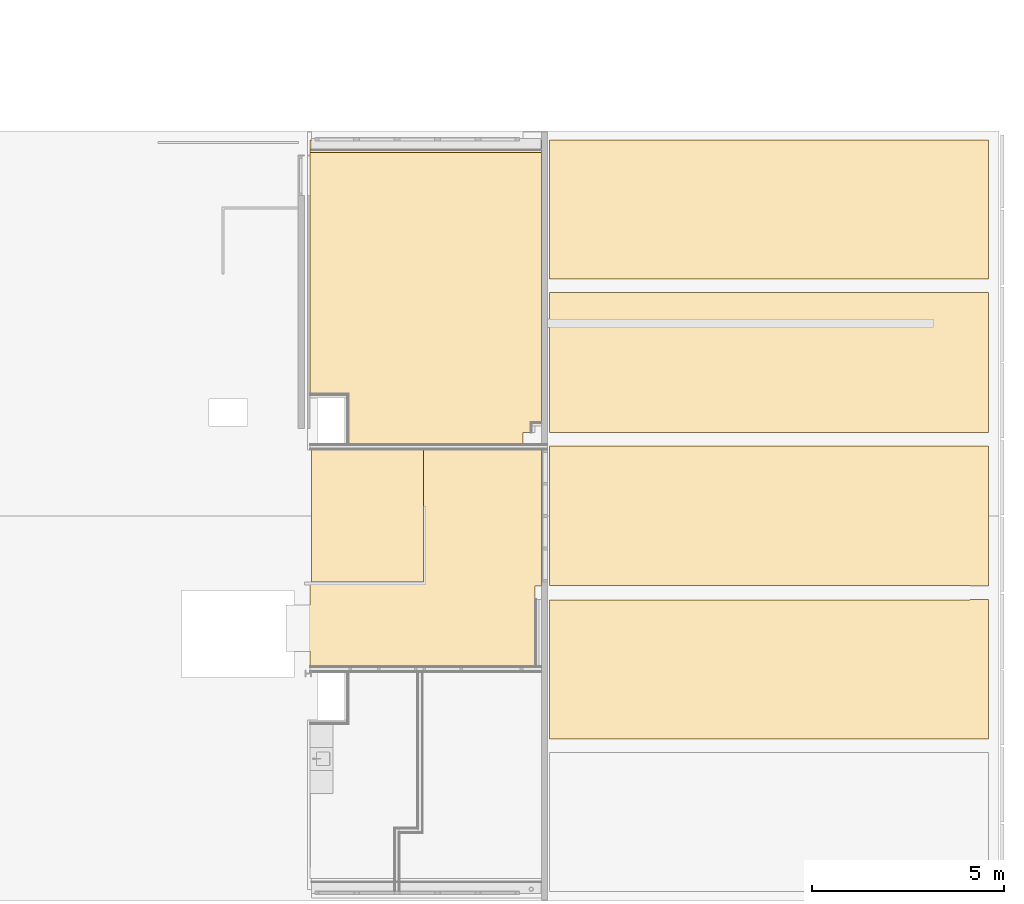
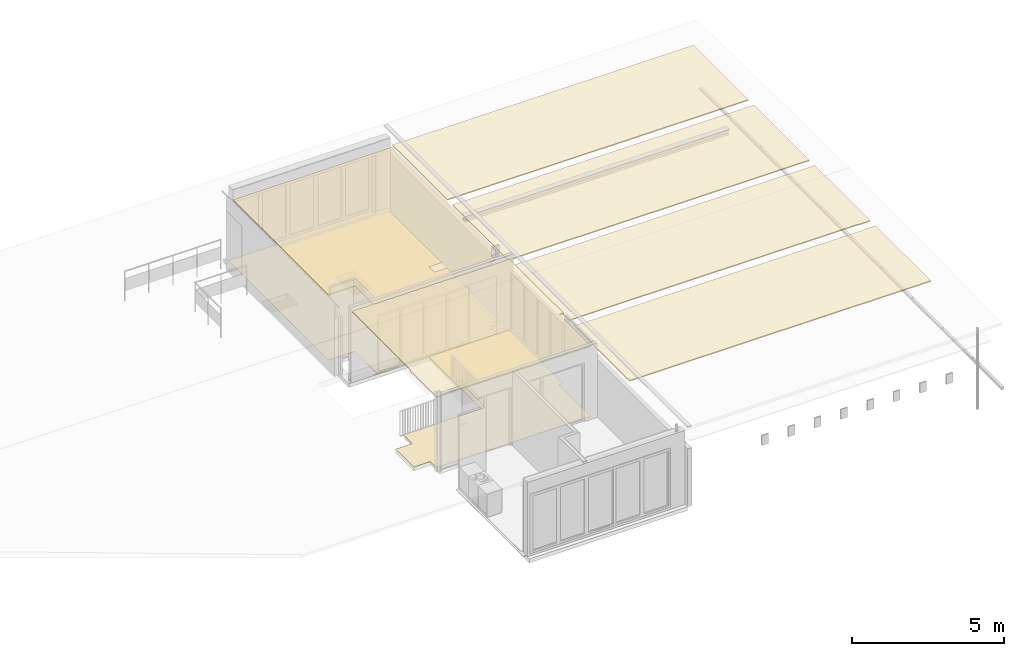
# One storey, part 21 of 25: 8 coverings.
"""IFC2X3 building model written with IfcOpenShell, lengths in millimetres."""

from ifc_helpers import new_model, entity, si_unit, converted_unit, derived_unit, money_unit, direction, frame, origin_with_axes, place, context, subcontext, project, spatial, faceted_brep, material, type_object, element, save


model = new_model("IFC2X3")

# Units and contexts
model_context = context("Model", 3, precision=0.01, world=origin_with_axes(), true_north=direction((0.0, 1.0)))
body_context = subcontext(model_context, "Body", "Model", "MODEL_VIEW")
ifc_project = project(units=[si_unit("LENGTHUNIT", "METRE", prefix="MILLI"), si_unit("AREAUNIT", "SQUARE_METRE"), si_unit("VOLUMEUNIT", "CUBIC_METRE"), converted_unit("PLANEANGLEUNIT", "DEGREE", entity("IfcPlaneAngleMeasure", 0.0174532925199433), si_unit("PLANEANGLEUNIT", "RADIAN"), dimensions=[0, 0, 0, 0, 0, 0, 0]), money_unit("EUR"), converted_unit("TIMEUNIT", "Year", entity("IfcTimeMeasure", 31557600.0), si_unit("TIMEUNIT", "SECOND"), dimensions=[0, 0, 1, 0, 0, 0, 0]), si_unit("MASSUNIT", "GRAM", prefix="KILO"), si_unit("THERMODYNAMICTEMPERATUREUNIT", "DEGREE_CELSIUS"), si_unit("LUMINOUSINTENSITYUNIT", "LUMEN"), si_unit("ENERGYUNIT", "JOULE", prefix="MEGA"), derived_unit("THERMALCONDUCTANCEUNIT", [(si_unit("POWERUNIT", "WATT"), 1), (si_unit("LENGTHUNIT", "METRE"), -1), (si_unit("THERMODYNAMICTEMPERATUREUNIT", "KELVIN"), -1)]), derived_unit("SPECIFICHEATCAPACITYUNIT", [(si_unit("ENERGYUNIT", "JOULE"), 1), (si_unit("MASSUNIT", "GRAM", prefix="KILO"), -1), (si_unit("THERMODYNAMICTEMPERATUREUNIT", "KELVIN"), -1)]), derived_unit("MASSDENSITYUNIT", [(si_unit("MASSUNIT", "GRAM", prefix="KILO"), 1), (si_unit("VOLUMEUNIT", "CUBIC_METRE"), -1)])], contexts=[model_context])

# Site, building, storey
site_placement = place(None, origin_with_axes())
site = spatial("IfcSite", under=ifc_project, at=site_placement, Name="<site naam>", CompositionType="ELEMENT")
building_placement = place(site_placement, origin_with_axes())
building = spatial("IfcBuilding", under=site, at=building_placement, Name="<Naam gebouw>", CompositionType="ELEMENT")
storey_placement = place(building_placement, frame((0.0, 0.0, 9563.0), z_axis=(0.0, 0.0, 1.0), x_axis=(1.0, 0.0, 0.0)))
storey = spatial("IfcBuildingStorey", under=building, at=storey_placement, Name="03 3e tussenverdieping", CompositionType="ELEMENT", Elevation=9563.0)

# Coverings
ifc_material_1 = material(Name="systeemplafond 600*600 kleur wit")
covering_type_1 = type_object("IfcCoveringType", Name="PA-01a 40", PredefinedType="CEILING")
covering_1_placement = place(storey_placement, frame((52135.00000000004, 19469.99999999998, 2600.0), z_axis=(0.0, 0.0, 1.0), x_axis=(1.0, 0.0, 0.0)))
element("IfcCovering", 1, at=covering_1_placement, inside=storey, type_object=covering_type_1, material=ifc_material_1, Name="45_Vloer_PA-01a", PredefinedType="CEILING", context=body_context, shape_type="Brep", body=[
    faceted_brep([(0.0, 0.0, 40.00000000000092), (0.0, 0.0, 0.0), (0.0, -6282.500067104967, 0.0), (0.0, -6282.500067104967, 40.00000000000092), (6022.782845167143, 0.0, 40.00000000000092), (6022.782845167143, 0.0, 0.0), (6022.782845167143, -7024.99992369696, 0.0), (5752.999757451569, -7024.99992369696, 0.0), (5752.999757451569, -7295.000019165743, 0.0), (5539.999978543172, -7295.000019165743, 0.0), (5539.999978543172, -7594.999957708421, 0.0), (1002.499965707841, -7594.999957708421, 0.0), (1002.499965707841, -6282.500067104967, 0.0), (1002.499965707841, -6282.500067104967, 40.00000000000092), (1002.499965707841, -7594.999957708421, 40.00000000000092), (5539.999978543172, -7594.999957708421, 40.00000000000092), (5539.999978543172, -7295.000019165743, 40.00000000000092), (5752.999757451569, -7295.000019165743, 40.00000000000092), (5752.999757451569, -7024.99992369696, 40.00000000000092), (6022.782845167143, -7024.99992369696, 40.00000000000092)], [[[0, 1, 2, 3]], [[4, 5, 1, 0]], [[2, 1, 5, 6, 7, 8, 9, 10, 11, 12]], [[3, 2, 12, 13]], [[4, 0, 3, 13, 14, 15, 16, 17, 18, 19]], [[19, 6, 5, 4]], [[18, 7, 6, 19]], [[17, 8, 7, 18]], [[16, 9, 8, 17]], [[15, 10, 9, 16]], [[14, 11, 10, 15]], [[13, 12, 11, 14]]]),
])
ifc_material_2 = material(Name="systeemplafond 600*600")
covering_type_2 = type_object("IfcCoveringType", Name="PA-01c 40", PredefinedType="CEILING")
covering_2_placement = place(storey_placement, frame((52134.99996013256, 7827.787513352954, 2799.999999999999), z_axis=(0.0, 0.0, 1.0), x_axis=(1.0, 0.0, 0.0)))
element("IfcCovering", 2, at=covering_2_placement, inside=storey, type_object=covering_type_2, material=ifc_material_2, Name="45_Vloer_PA-01c", PredefinedType="CEILING", context=body_context, shape_type="Brep", body=[
    faceted_brep([(0.0, 0.0, 40.00000000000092), (0.0, 0.0, 0.0), (0.0, -1742.787513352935, 0.0), (0.0, -1742.787513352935, 40.00000000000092), (40.00003474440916, 0.0, 40.00000000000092), (40.00003474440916, 0.0, 0.0), (40.00003474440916, 3897.212718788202, 0.0), (6022.78288457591, 3897.212718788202, 0.0), (6022.78288457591, 347.2124866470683, 0.0), (5865.000039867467, 347.2124866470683, 0.0), (5865.000039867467, -1742.787513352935, 0.0), (5865.000039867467, -1742.787513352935, 40.00000000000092), (5865.000039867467, 347.2124866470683, 40.00000000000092), (6022.78288457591, 347.2124866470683, 40.00000000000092), (6022.78288457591, 3897.212718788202, 40.00000000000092), (40.00003474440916, 3897.212718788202, 40.00000000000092)], [[[0, 1, 2, 3]], [[4, 5, 1, 0]], [[1, 5, 6, 7, 8, 9, 10, 2]], [[3, 2, 10, 11]], [[4, 0, 3, 11, 12, 13, 14, 15]], [[15, 6, 5, 4]], [[14, 7, 6, 15]], [[13, 8, 7, 14]], [[12, 9, 8, 13]], [[11, 10, 9, 12]]]),
])
ifc_material_3 = material(Name="geïntegreerd balvast lamellenplafond")
covering_type_3 = type_object("IfcCoveringType", Name="PA-04 40", PredefinedType="CEILING")
covering_3_placement = place(storey_placement, frame((69812.00005339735, 15824.99995279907, 2427.029654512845), z_axis=(0.0, 0.0, 1.0), x_axis=(1.0, 0.0, 0.0)))
element("IfcCovering", 3, at=covering_3_placement, inside=storey, type_object=covering_type_3, material=ifc_material_3, Name="45_Vloer_PA-04", PredefinedType="CEILING", context=body_context, shape_type="Brep", body=[
    faceted_brep([(0.0, 0.0, 40.00000000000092), (0.0, 0.0, 0.0), (-11444.56596703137, 0.0, 0.0), (-11444.56596703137, 0.0, 40.00000000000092), (0.0, -3649.99991845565, 40.00000000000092), (0.0, -3649.99991845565, 0.0), (-11444.56596703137, -3649.99991845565, 0.0), (-11444.56596703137, -3649.99991845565, 40.00000000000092)], [[[0, 1, 2, 3]], [[4, 5, 1, 0]], [[2, 1, 5, 6]], [[3, 2, 6, 7]], [[4, 0, 3, 7]], [[7, 6, 5, 4]]]),
])
covering_4_placement = place(storey_placement, frame((58367.43408636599, 11825.00000469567, 2427.029654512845), z_axis=(0.0, 0.0, 1.0), x_axis=(1.0, 0.0, 0.0)))
element("IfcCovering", 4, at=covering_4_placement, inside=storey, type_object=covering_type_3, material=ifc_material_3, Name="45_Vloer_PA-04", PredefinedType="CEILING", context=body_context, shape_type="Brep", body=[
    faceted_brep([(0.0, -3640.000004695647, 40.00000000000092), (10957.56591363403, -3640.000004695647, 40.00000000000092), (10957.56591363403, -3650.000004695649, 40.00000000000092), (11444.56596703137, -3649.99991845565, 40.00000000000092), (11444.56596703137, 0.0, 40.00000000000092), (0.0, 0.0, 40.00000000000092), (10957.56591363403, -3640.000004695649, 0.0), (0.0, -3640.000004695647, 0.0), (10957.56591363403, -3650.000004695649, 0.0), (11444.56596703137, -3649.99991845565, 0.0), (11444.56596703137, 0.0, 0.0), (0.0, 0.0, 0.0)], [[[0, 1, 2, 3, 4, 5]], [[6, 1, 0, 7]], [[8, 2, 1, 6]], [[3, 2, 8, 9]], [[4, 3, 9, 10]], [[5, 4, 10, 11]], [[11, 7, 0, 5]], [[8, 6, 7, 11, 10, 9]]]),
])
covering_5_placement = place(storey_placement, frame((58367.43408636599, 7825.000054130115, 2427.029654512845), z_axis=(0.0, 0.0, 1.0), x_axis=(1.0, 0.0, 0.0)))
element("IfcCovering", 5, at=covering_5_placement, inside=storey, type_object=covering_type_3, material=ifc_material_3, Name="45_Vloer_PA-04", PredefinedType="CEILING", context=body_context, shape_type="Brep", body=[
    faceted_brep([(11444.56596703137, 0.0, 0.0), (10957.56591363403, -5.413009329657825e-05, 0.0), (10957.56591363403, -5.413009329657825e-05, 40.00000000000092), (11444.56596703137, 0.0, 40.00000000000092), (0.0, -10.00005413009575, 0.0), (10957.56591363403, -10.00005413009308, 0.0), (11444.56596703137, -3639.089444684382, 0.0), (0.0, -3639.089444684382, 0.0), (10957.56591363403, -10.00005413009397, 40.00000000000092), (0.0, -10.00005413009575, 40.00000000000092), (0.0, -3639.089444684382, 40.00000000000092), (11444.56596703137, -3639.089444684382, 40.00000000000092)], [[[0, 1, 2, 3]], [[4, 5, 1, 0, 6, 7]], [[5, 8, 2, 1]], [[2, 8, 9, 10, 11, 3]], [[3, 11, 6, 0]], [[4, 9, 8, 5]], [[11, 10, 7, 6]], [[10, 9, 4, 7]]]),
])
covering_6_placement = place(storey_placement, frame((58367.43408636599, 16174.99996479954, 2427.029654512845), z_axis=(0.0, 0.0, 1.0), x_axis=(1.0, 0.0, 0.0)))
element("IfcCovering", 6, at=covering_6_placement, inside=storey, type_object=covering_type_3, material=ifc_material_3, Name="45_Vloer_PA-04", PredefinedType="CEILING", context=body_context, shape_type="Brep", body=[
    faceted_brep([(0.0, 0.0, 40.00000000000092), (0.0, 0.0, 0.0), (11444.56596703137, 0.0, 0.0), (11444.56596703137, 0.0, 40.00000000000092), (0.0, 3615.000025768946, 40.00000000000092), (0.0, 3615.000025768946, 0.0), (11444.56596703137, 3615.000025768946, 0.0), (11444.56596703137, 3615.000025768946, 40.00000000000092)], [[[0, 1, 2, 3]], [[4, 5, 1, 0]], [[2, 1, 5, 6]], [[3, 2, 6, 7]], [[4, 0, 3, 7]], [[7, 6, 5, 4]]]),
])
ifc_material_4 = material(Name="Vinyl type 01a")
covering_type_4 = type_object("IfcCoveringType", Name="VA-01a 3", PredefinedType="CEILING")
covering_7_placement = place(storey_placement, frame((58157.78291941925, 19800.00000000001, 0.0), z_axis=(0.0, 0.0, 1.0), x_axis=(1.0, 0.0, 0.0)))
element("IfcCovering", 7, at=covering_7_placement, inside=storey, type_object=covering_type_4, material=ifc_material_4, Name="43_Vloer_VA-01a", PredefinedType="CEILING", context=body_context, shape_type="Brep", body=[
    faceted_brep([(0.0, 0.0, 3.000000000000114), (0.0, 0.0, 0.0), (-6022.782890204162, 0.0, 0.0), (-6022.782890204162, 0.0, 3.000000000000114), (0.0, -3625.000023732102, 3.000000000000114), (0.0, -3625.000023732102, 0.0), (-482.7829636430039, -3625.000023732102, 0.0), (-482.7829636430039, -3975.000000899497, 0.0), (0.0, -3975.000000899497, 0.0), (0.0, -7454.999924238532, 0.0), (-169.7831050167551, -7454.999924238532, 0.0), (-169.7831050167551, -7625.000075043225, 0.0), (-482.7829636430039, -7625.000075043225, 0.0), (-482.7829636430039, -8075.000010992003, 0.0), (-5020.282884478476, -8075.000010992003, 0.0), (-5020.282884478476, -6612.499976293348, 0.0), (-6022.782890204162, -6612.499976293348, 0.0), (-6022.782890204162, -6612.499976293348, 3.000000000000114), (-5020.282884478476, -6612.499976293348, 3.000000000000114), (-5020.282884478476, -8075.000010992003, 3.000000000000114), (-482.7829636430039, -8075.000010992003, 3.000000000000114), (-482.7829636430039, -7625.000075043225, 3.000000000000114), (-169.7831050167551, -7625.000075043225, 3.000000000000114), (-169.7831050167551, -7454.999924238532, 3.000000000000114), (0.0, -7454.999924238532, 3.000000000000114), (0.0, -3975.000000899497, 3.000000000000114), (-482.7829636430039, -3975.000000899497, 3.000000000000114), (-482.7829636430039, -3625.000023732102, 3.000000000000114)], [[[0, 1, 2, 3]], [[4, 5, 1, 0]], [[2, 1, 5, 6, 7, 8, 9, 10, 11, 12, 13, 14, 15, 16]], [[3, 2, 16, 17]], [[4, 0, 3, 17, 18, 19, 20, 21, 22, 23, 24, 25, 26, 27]], [[27, 6, 5, 4]], [[26, 7, 6, 27]], [[25, 8, 7, 26]], [[24, 9, 8, 25]], [[23, 10, 9, 24]], [[22, 11, 10, 23]], [[21, 12, 11, 22]], [[20, 13, 12, 21]], [[19, 14, 13, 20]], [[18, 15, 14, 19]], [[17, 16, 15, 18]]]),
])
covering_8_placement = place(storey_placement, frame((52134.99997764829, 8275.000072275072, 0.0), z_axis=(0.0, 0.0, 1.0), x_axis=(1.0, 0.0, 0.0)))
element("IfcCovering", 8, at=covering_8_placement, inside=storey, type_object=covering_type_4, material=ifc_material_4, Name="43_Vloer_VA-01a", PredefinedType="CEILING", context=body_context, shape_type="Brep", body=[
    faceted_brep([(0.0, 0.0, 3.000000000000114), (0.0, 0.0, 0.0), (0.0, -600.0000722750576, 0.0), (0.0, -600.0000722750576, 3.000000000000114), (2959.621819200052, 0.0, 3.000000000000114), (2959.621819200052, 0.0, 0.0), (2959.621819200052, 3449.999948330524, 0.0), (6022.782733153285, 3449.999948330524, 0.0), (6022.782733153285, -100.0000843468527, 0.0), (5865.000055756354, -100.0000843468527, 0.0), (5865.000055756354, -2190.000052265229, 0.0), (0.0, -2190.000052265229, 0.0), (0.0, -1796.308398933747, 0.0), (-634.9999776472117, -1796.308398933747, 0.0), (-634.9999776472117, -600.0000722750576, 0.0), (-634.9999776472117, -600.0000722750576, 3.000000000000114), (-634.9999776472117, -1796.308398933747, 3.000000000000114), (0.0, -1796.308398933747, 3.000000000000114), (0.0, -2190.000052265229, 3.000000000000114), (5865.000055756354, -2190.000052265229, 3.000000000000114), (5865.000055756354, -100.0000843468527, 3.000000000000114), (6022.782733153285, -100.0000843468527, 3.000000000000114), (6022.782733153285, 3449.999948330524, 3.000000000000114), (2959.621819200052, 3449.999948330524, 3.000000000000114)], [[[0, 1, 2, 3]], [[4, 5, 1, 0]], [[2, 1, 5, 6, 7, 8, 9, 10, 11, 12, 13, 14]], [[3, 2, 14, 15]], [[4, 0, 3, 15, 16, 17, 18, 19, 20, 21, 22, 23]], [[23, 6, 5, 4]], [[22, 7, 6, 23]], [[21, 8, 7, 22]], [[20, 9, 8, 21]], [[19, 10, 9, 20]], [[18, 11, 10, 19]], [[17, 12, 11, 18]], [[16, 13, 12, 17]], [[15, 14, 13, 16]]]),
])

save(model, "model.ifc")
